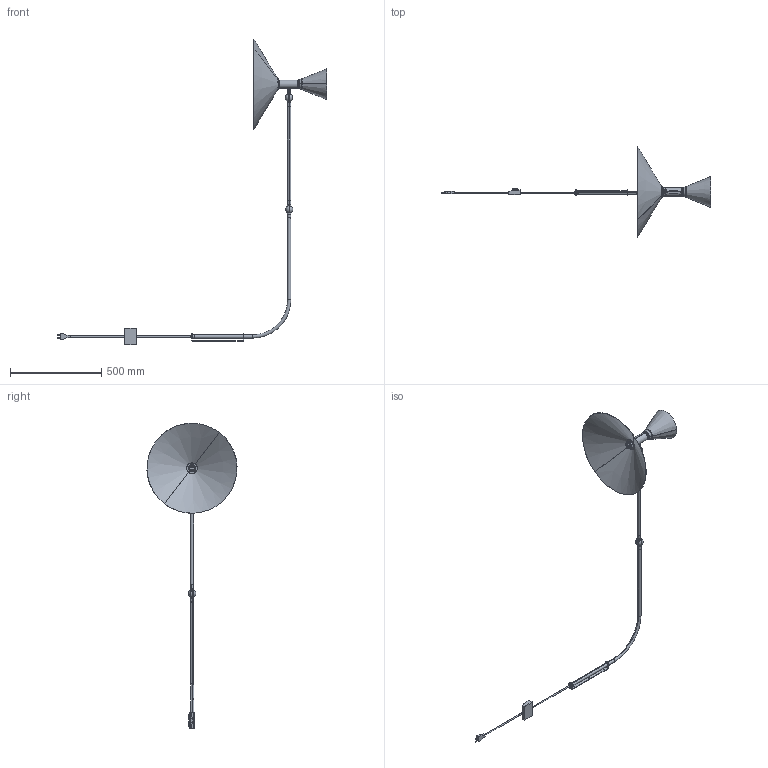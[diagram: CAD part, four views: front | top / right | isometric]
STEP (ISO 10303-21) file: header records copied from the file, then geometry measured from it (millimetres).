
FILE_DESCRIPTION (( 'STEP AP203' ), '1' );
FILE_NAME ('800LDMEWW311.STEP', '2016-07-05T16:05:08', ( '' ), ( '' ), 'SwSTEP 2.0', 'SolidWorks 2016', '' );
FILE_SCHEMA (( 'CONFIG_CONTROL_DESIGN' ));
Length unit declared in the file: millimetre
Products named in the file (30): 010LDM701000-cono piccolo; 010LDM700500-snodo m stelo curvo; 019COM000217 steab 5141; 010LDM701200-staffa ptl; ranella rasamento; Tige M10 x 1 x 10; ghiera ptl E27; 010LDM700400-snodo femmina; e27_clic; Steab 5101 passacavo; ranella Ø12 sfettata internamente; 010LDM700300-tubo orizz; Ranella 10x21x2 001659200010; e27_01; Vite TSICR M4x6; 010LDM700600-snodo m testa; 010LDM700100-staffa a muro; vite snodo; dado M10x1 sp.4.5; 010LDM701400-frizione di testa; 010LDM701100-riduzione; Molla a tazza 6.2X12.5X0.5X0.85; dado M12 sp.5 ch.17; 010LDM700800-cilindro; 010LDM700200-tubo curvo; 800LDMEWW311; grano EI M3x3.5; 010LDM700900-cono grande; 010LDM701300-boccola; 030ALN000100 INTERRUT 2 LUCI
Assembly tree (44 placements, depth 2):
  800LDMEWW311
    010LDM700100-staffa a muro
    010LDM701100-riduzione
    010LDM700200-tubo curvo
    010LDM701300-boccola
    010LDM700500-snodo m stelo curvo
    ranella rasamento  x2
    010LDM700400-snodo femmina  x2
    010LDM700300-tubo orizz
    010LDM700600-snodo m testa
    010LDM701400-frizione di testa
    010LDM700800-cilindro
    010LDM700900-cono grande
    010LDM701000-cono piccolo
    010LDM701200-staffa ptl
    ghiera ptl E27  x2
    ranella Ø12 sfettata internamente  x2
    Vite TSICR M4x6  x2
    dado M10x1 sp.4.5
    dado M12 sp.5 ch.17
    grano EI M3x3.5  x2
    030ALN000100 INTERRUT 2 LUCI
    019COM000217 steab 5141
    Tige M10 x 1 x 10  x2
    Steab 5101 passacavo  x2
    e27_01  x2
    e27_clic  x2
    Ranella 10x21x2 001659200010  x4
    vite snodo  x2
    Molla a tazza 6.2X12.5X0.5X0.85  x2
Bounding box: 1481.28 x 494.58 x 1677.89 mm (x, y, z)
Volume: 864527.6 mm3; surface area: 920736 mm2
Topology: 46 solids, 46 shells, 1174 faces, 2920 edges, 1848 vertices
Faces by surface type: plane 553, cylinder 463, cone 74, torus 59, bspline 13, sphere 12
Entity records: 32261 total; most frequent: CARTESIAN_POINT 9234, DIRECTION 4218, ORIENTED_EDGE 3940, EDGE_CURVE 1970, AXIS2_PLACEMENT_3D 1603, VERTEX_POINT 1243, LINE 1012, VECTOR 1012
